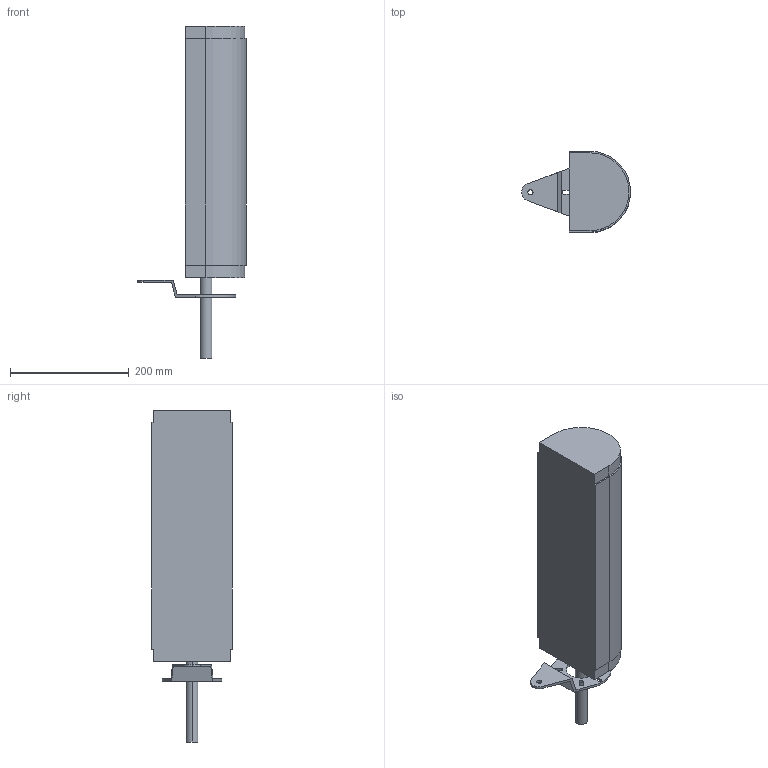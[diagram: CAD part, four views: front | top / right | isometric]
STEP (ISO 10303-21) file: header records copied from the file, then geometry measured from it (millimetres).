
FILE_DESCRIPTION (( 'STEP AP214' ), '1' );
FILE_NAME ('FS-MTC-150 420 links ra.STEP', '2017-12-21T09:28:02', ( '' ), ( '' ), 'SwSTEP 2.0', 'SolidWorks 2017', '' );
FILE_SCHEMA (( 'AUTOMOTIVE_DESIGN' ));
Length unit declared in the file: millimetre
Products named in the file (1): FS-MTC-150 420 links ra
Bounding box: 183 x 136 x 558 mm (x, y, z)
Volume: 5137844.3 mm3; surface area: 232736.2 mm2
Topology: 2 solids, 2 shells, 70 faces, 195 edges, 130 vertices
Faces by surface type: plane 36, cylinder 34
Entity records: 2350 total; most frequent: DIRECTION 405, CARTESIAN_POINT 396, ORIENTED_EDGE 390, EDGE_CURVE 195, AXIS2_PLACEMENT_3D 139, VERTEX_POINT 130, VECTOR 127, LINE 127
